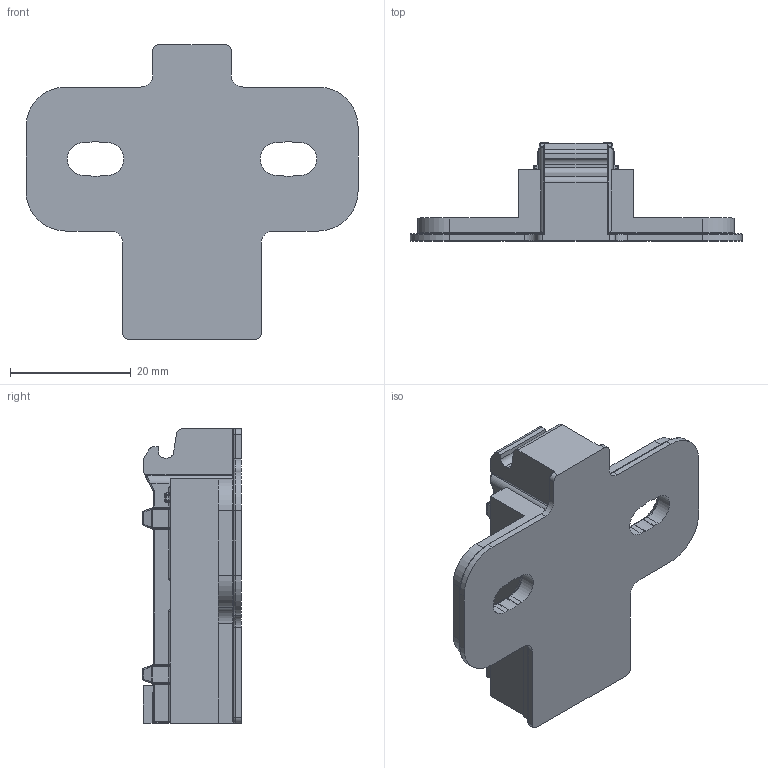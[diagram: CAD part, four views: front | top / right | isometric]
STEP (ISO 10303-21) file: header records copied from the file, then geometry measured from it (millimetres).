
FILE_DESCRIPTION (( 'STEP AP203' ), '1' );
FILE_NAME ('81H90AQA.STEP', '2024-07-27T00:39:24', ( '微软用户' ), ( '微软中国' ), 'SwSTEP 2.0', 'SolidWorks 2021', '' );
FILE_SCHEMA (( 'CONFIG_CONTROL_DESIGN' ));
Length unit declared in the file: millimetre
Products named in the file (1): 81H90AQA
Bounding box: 55.1 x 16.3 x 48.85 mm (x, y, z)
Volume: 14444.1 mm3; surface area: 5782.4 mm2
Topology: 1 solids, 1 shells, 535 faces, 1305 edges, 732 vertices
Faces by surface type: cylinder 209, plane 119, bspline 75, torus 65, sphere 63, cone 4
Entity records: 16293 total; most frequent: CARTESIAN_POINT 4392, ORIENTED_EDGE 2530, DIRECTION 2498, EDGE_CURVE 1265, AXIS2_PLACEMENT_3D 985, VERTEX_POINT 732, EDGE_LOOP 539, ADVANCED_FACE 535
